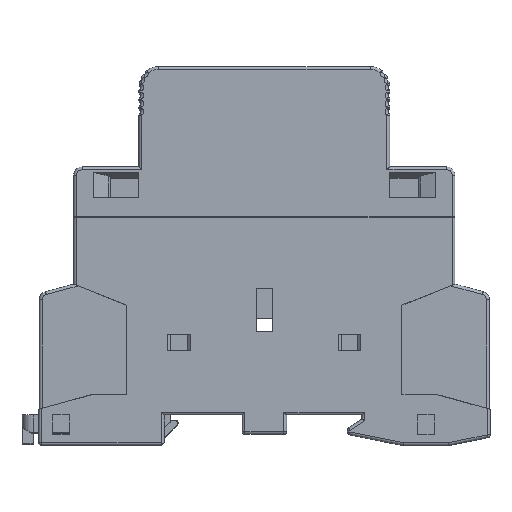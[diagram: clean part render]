
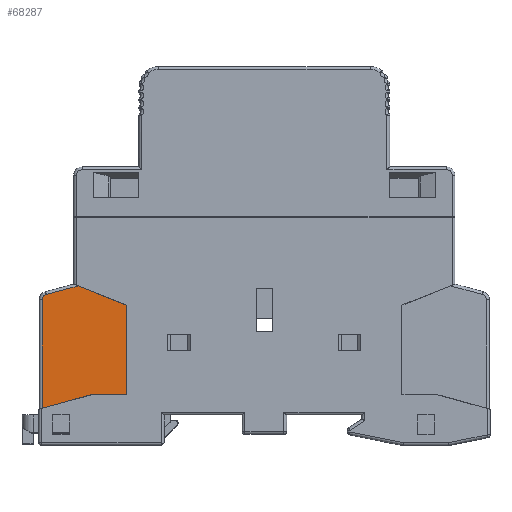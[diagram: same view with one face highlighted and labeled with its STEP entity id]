
A CAD part, top view. The second image highlights one B-rep face of the part: STEP entity #68287.
In plain terms, the highlighted planar face has unit normal (0, 0, 1).
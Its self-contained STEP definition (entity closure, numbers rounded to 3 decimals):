
#16430=CARTESIAN_POINT('',(-33.425,28.64,8.9));
#18623=DIRECTION('',(1.,0.,0.));
#18624=VECTOR('',#18623,0.1);
#18625=CARTESIAN_POINT('',(-30.8,9.2,8.9));
#18626=LINE('',#18625,#18624);
#18627=DIRECTION('',(0.964,0.266,0.));
#18628=VECTOR('',#18627,9.44);
#18629=CARTESIAN_POINT('',(-39.9,6.688,8.9));
#18630=LINE('',#18629,#18628);
#18631=DIRECTION('',(0.,-1.,0.));
#18632=VECTOR('',#18631,19.45);
#18633=CARTESIAN_POINT('',(-39.9,26.138,8.9));
#18634=LINE('',#18633,#18632);
#18635=CARTESIAN_POINT('',(-38.9,26.138,8.9));
#18636=DIRECTION('',(0.,0.,1.));
#18637=DIRECTION('',(-0.259,0.966,0.));
#18638=AXIS2_PLACEMENT_3D('',#18635,#18636,#18637);
#18640=DIRECTION('',(-0.966,-0.259,0.));
#18641=VECTOR('',#18640,5.936);
#18642=CARTESIAN_POINT('',(-33.425,28.64,8.9));
#18643=LINE('',#18642,#18641);
#18644=DIRECTION('',(-0.928,0.371,0.));
#18645=VECTOR('',#18644,9.397);
#18646=CARTESIAN_POINT('',(-24.7,25.15,8.9));
#18647=LINE('',#18646,#18645);
#18648=DIRECTION('',(0.,-1.,0.));
#18649=VECTOR('',#18648,15.95);
#18650=CARTESIAN_POINT('',(-24.7,25.15,8.9));
#18651=LINE('',#18650,#18649);
#18827=DIRECTION('',(1.,0.,0.));
#18828=VECTOR('',#18827,6.);
#18829=CARTESIAN_POINT('',(-30.7,9.2,8.9));
#18830=LINE('',#18829,#18828);
#19192=CARTESIAN_POINT('',(-39.9,6.688,8.9));
#44958=CARTESIAN_POINT('',(-30.8,9.2,8.9));
#44959=VERTEX_POINT('',#44958);
#45270=VERTEX_POINT('',#19192);
#45274=CARTESIAN_POINT('',(-39.9,26.138,8.9));
#45275=VERTEX_POINT('',#45274);
#45276=CARTESIAN_POINT('',(-39.159,27.104,8.9));
#45277=VERTEX_POINT('',#45276);
#45281=VERTEX_POINT('',#16430);
#45834=CARTESIAN_POINT('',(-24.7,25.15,8.9));
#45835=CARTESIAN_POINT('',(-24.7,9.2,8.9));
#45836=VERTEX_POINT('',#45834);
#45837=VERTEX_POINT('',#45835);
#45844=CARTESIAN_POINT('',(-30.7,9.2,8.9));
#45845=VERTEX_POINT('',#45844);
#68266=CARTESIAN_POINT('',(-24.7,9.2,8.9));
#68267=DIRECTION('',(0.,0.,1.));
#68268=DIRECTION('',(1.,0.,0.));
#68269=AXIS2_PLACEMENT_3D('',#68266,#68267,#68268);
#68270=PLANE('',#68269);
#68272=ORIENTED_EDGE('',*,*,#68271,.T.);
#68274=ORIENTED_EDGE('',*,*,#68273,.F.);
#68276=ORIENTED_EDGE('',*,*,#68275,.F.);
#68278=ORIENTED_EDGE('',*,*,#68277,.F.);
#68280=ORIENTED_EDGE('',*,*,#68279,.F.);
#68282=ORIENTED_EDGE('',*,*,#68281,.F.);
#68283=ORIENTED_EDGE('',*,*,#68258,.F.);
#68284=ORIENTED_EDGE('',*,*,#65568,.F.);
#68285=EDGE_LOOP('',(#68272,#68274,#68276,#68278,#68280,#68282,#68283,#68284));
#68286=FACE_OUTER_BOUND('',#68285,.F.);
#68287=ADVANCED_FACE('',(#68286),#68270,.T.);
#18639=CIRCLE('',#18638,1.);
#65568=EDGE_CURVE('',#45836,#45281,#18647,.T.);
#68258=EDGE_CURVE('',#45281,#45277,#18643,.T.);
#68271=EDGE_CURVE('',#45836,#45837,#18651,.T.);
#68273=EDGE_CURVE('',#45845,#45837,#18830,.T.);
#68275=EDGE_CURVE('',#44959,#45845,#18626,.T.);
#68277=EDGE_CURVE('',#45270,#44959,#18630,.T.);
#68279=EDGE_CURVE('',#45275,#45270,#18634,.T.);
#68281=EDGE_CURVE('',#45277,#45275,#18639,.T.);
